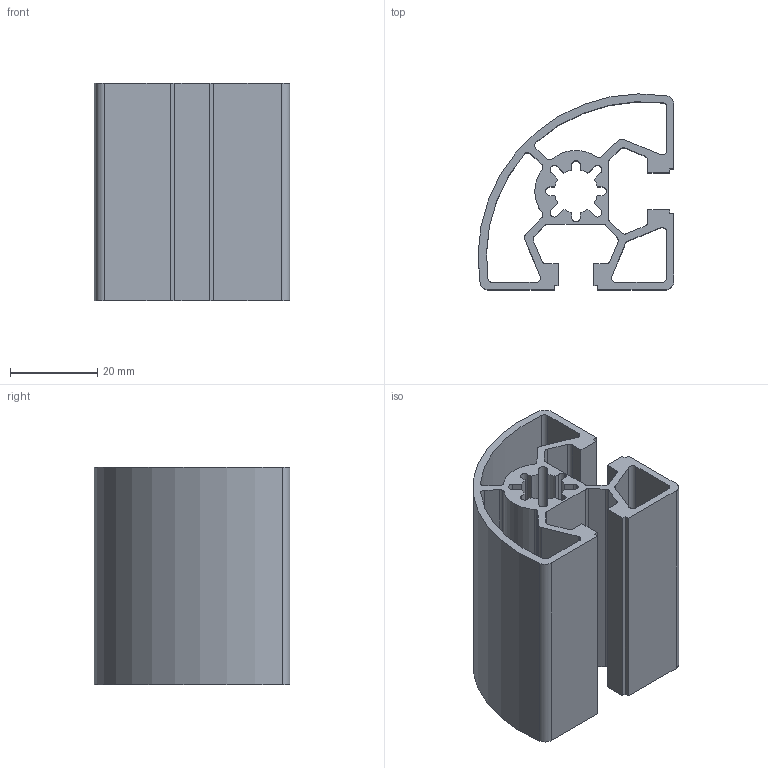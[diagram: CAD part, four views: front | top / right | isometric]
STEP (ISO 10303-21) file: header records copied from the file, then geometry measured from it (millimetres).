
FILE_DESCRIPTION (( 'STEP AP203' ), '1' );
FILE_NAME ('45X45 90° RADÜS.STEP', '2018-04-06T08:37:07', ( '' ), ( '' ), 'SwSTEP 2.0', 'SolidWorks 2014', '' );
FILE_SCHEMA (( 'CONFIG_CONTROL_DESIGN' ));
Length unit declared in the file: millimetre
Products named in the file (1): 45X45 90° RADÜS
Bounding box: 45 x 45 x 50 mm (x, y, z)
Volume: 26563.5 mm3; surface area: 26973.5 mm2
Topology: 1 solids, 1 shells, 119 faces, 351 edges, 234 vertices
Faces by surface type: plane 60, cylinder 59
Entity records: 4096 total; most frequent: DIRECTION 709, CARTESIAN_POINT 705, ORIENTED_EDGE 702, EDGE_CURVE 351, AXIS2_PLACEMENT_3D 238, VERTEX_POINT 234, LINE 233, VECTOR 233
